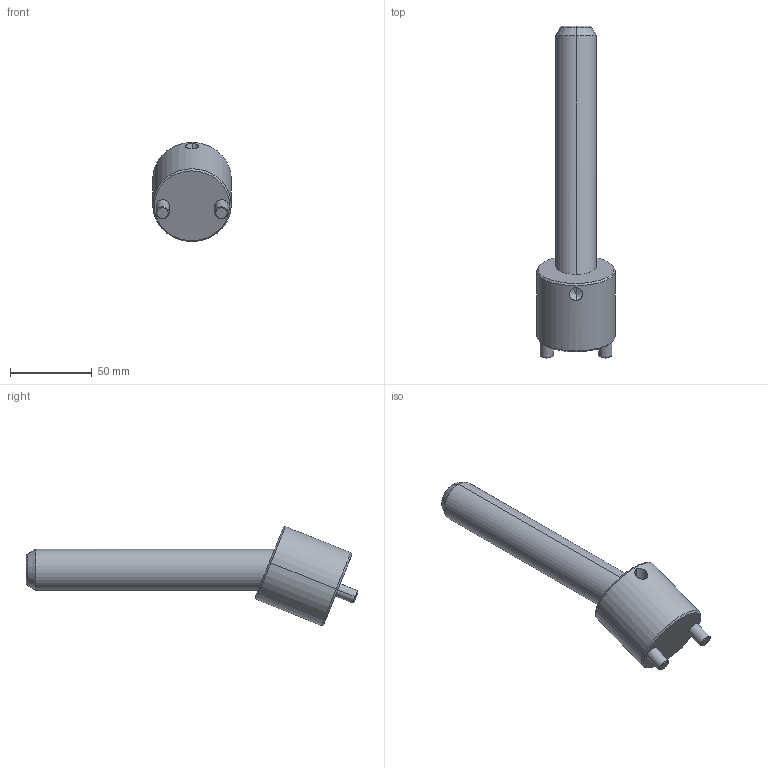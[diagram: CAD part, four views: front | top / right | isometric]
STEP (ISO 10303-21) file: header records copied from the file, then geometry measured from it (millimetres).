
FILE_DESCRIPTION(('CATIA V5 STEP Exchange'),'2;1');
FILE_NAME('C:\Users\Raffaele\Desktop\3D BOLEX\3D FILES CF BOLEX\19-INCLINED ASSEMBLY REF_CI\CI2225150.stp','2019-06-24T06:52:50+00:00',('none'),('none'),'CATIA Version 5 Release 20 GA (IN-10)','CATIA V5 STEP AP203','none');
FILE_SCHEMA(('CONFIG_CONTROL_DESIGN'));
Length unit declared in the file: millimetre
Products named in the file (1): CI2225150
Assembly tree (2 placements, depth 2):
  CI2225150
    #58
    #605
Bounding box: 48 x 203.03 x 60.61 mm (x, y, z)
Volume: 152804.7 mm3; surface area: 29298 mm2
Topology: 2 solids, 2 shells, 39 faces, 82 edges, 47 vertices
Faces by surface type: cone 14, cylinder 14, plane 7, torus 4
Entity records: 1533 total; most frequent: CARTESIAN_POINT 674, ORIENTED_EDGE 160, DIRECTION 145, EDGE_CURVE 80, AXIS2_PLACEMENT_3D 72, VERTEX_POINT 47, EDGE_LOOP 43, ADVANCED_FACE 39
